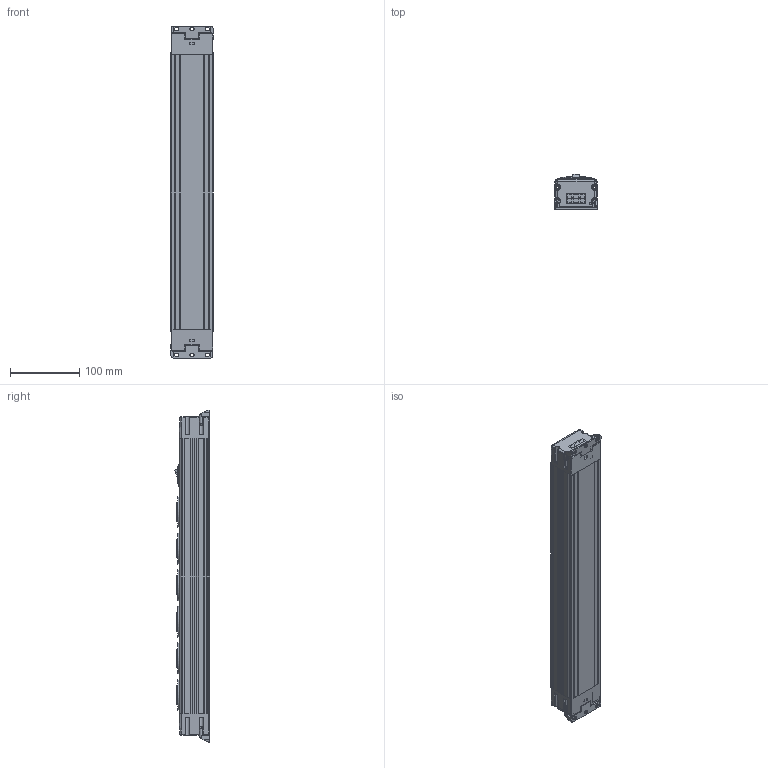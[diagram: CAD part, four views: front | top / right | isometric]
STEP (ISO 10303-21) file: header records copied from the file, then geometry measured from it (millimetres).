
FILE_DESCRIPTION((''),'2;1');
FILE_NAME('P:\Manufacturing\Autocad drawings\Inventor\blocks\powerbox-block\PB US1.stp','2021-01-14T12:34:40',('ScottReyner'),(''),'Autodesk Inventor 2012','Autodesk Inventor 2012','');
FILE_SCHEMA(('AUTOMOTIVE_DESIGN { 1 0 10303 214 1 1 1 1 }'));
Length unit declared in the file: inch
Products named in the file (1): Part182
Bounding box: 61 x 50.92 x 480.9 mm (x, y, z)
Volume: 299933 mm3; surface area: 274022.1 mm2
Topology: 14 solids, 63 shells, 2914 faces, 7575 edges, 4785 vertices
Faces by surface type: plane 1849, cylinder 764, bspline 151, cone 80, torus 36, sphere 34
Full cylindrical faces by diameter (mm): 2.65 x2, 3.3 x8, 3.56 x4, 3.812 x2, 43 x6, 44.8 x6
Entity records: 106471 total; most frequent: CARTESIAN_POINT 33507, ORIENTED_EDGE 14716, DIRECTION 14519, EDGE_CURVE 7358, VECTOR 5117, LINE 5117, VERTEX_POINT 4711, AXIS2_PLACEMENT_3D 4701
